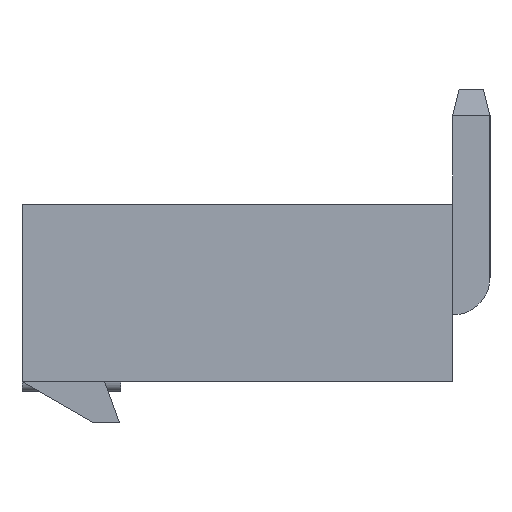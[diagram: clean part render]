
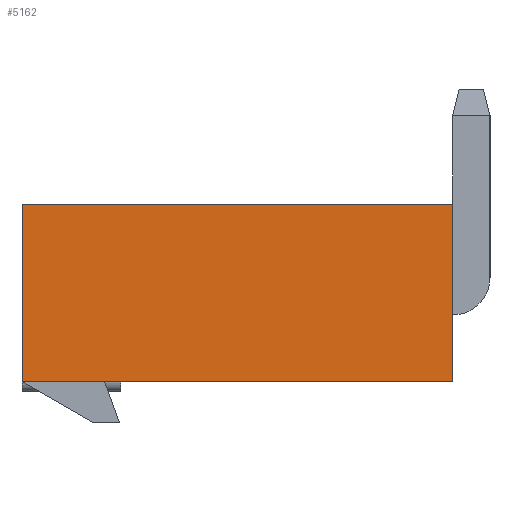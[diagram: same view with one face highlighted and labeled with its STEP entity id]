
A CAD part, left-side view. The second image highlights one B-rep face of the part: STEP entity #5162.
In plain terms, the highlighted planar face has unit normal (-1, 0, 0).
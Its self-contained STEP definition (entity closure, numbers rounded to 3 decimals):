
#540=FACE_OUTER_BOUND('',#837,.T.);
#837=EDGE_LOOP('',(#4375,#4376,#4377,#4378));
#1457=LINE('',#8038,#2110);
#1458=LINE('',#8040,#2111);
#1459=LINE('',#8042,#2112);
#1460=LINE('',#8043,#2113);
#2110=VECTOR('',#6665,10.);
#2111=VECTOR('',#6666,10.);
#2112=VECTOR('',#6667,10.);
#2113=VECTOR('',#6668,10.);
#2560=VERTEX_POINT('',#8036);
#2561=VERTEX_POINT('',#8037);
#2562=VERTEX_POINT('',#8039);
#2563=VERTEX_POINT('',#8041);
#3199=EDGE_CURVE('',#2560,#2561,#1457,.T.);
#3200=EDGE_CURVE('',#2561,#2562,#1458,.T.);
#3201=EDGE_CURVE('',#2562,#2563,#1459,.T.);
#3202=EDGE_CURVE('',#2563,#2560,#1460,.T.);
#4375=ORIENTED_EDGE('',*,*,#3199,.T.);
#4376=ORIENTED_EDGE('',*,*,#3200,.T.);
#4377=ORIENTED_EDGE('',*,*,#3201,.T.);
#4378=ORIENTED_EDGE('',*,*,#3202,.T.);
#4876=PLANE('',#5491);
#5162=ADVANCED_FACE('',(#540),#4876,.T.);
#5491=AXIS2_PLACEMENT_3D('',#8035,#6663,#6664);
#6663=DIRECTION('center_axis',(-1.,0.,0.));
#6664=DIRECTION('ref_axis',(0.,0.,1.));
#6665=DIRECTION('',(0.,-1.,0.));
#6666=DIRECTION('',(0.,0.,1.));
#6667=DIRECTION('',(0.,1.,0.));
#6668=DIRECTION('',(0.,0.,-1.));
#8035=CARTESIAN_POINT('Origin',(-34.2,6.55,-2.7));
#8036=CARTESIAN_POINT('',(-34.2,13.1,-5.4));
#8037=CARTESIAN_POINT('',(-34.2,0.,-5.4));
#8038=CARTESIAN_POINT('',(-34.2,0.,-5.4));
#8039=CARTESIAN_POINT('',(-34.2,0.,0.));
#8040=CARTESIAN_POINT('',(-34.2,0.,0.));
#8041=CARTESIAN_POINT('',(-34.2,13.1,0.));
#8042=CARTESIAN_POINT('',(-34.2,13.1,0.));
#8043=CARTESIAN_POINT('',(-34.2,13.1,-5.4));
